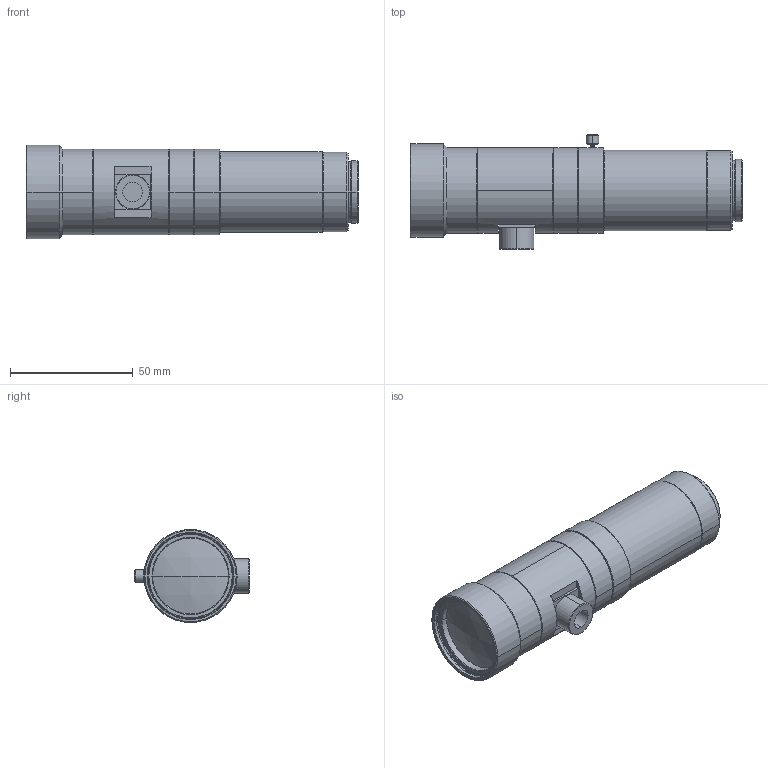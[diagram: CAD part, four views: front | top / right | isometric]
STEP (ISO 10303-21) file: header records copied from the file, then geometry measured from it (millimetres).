
FILE_DESCRIPTION (( 'STEP AP203' ), '1' );
FILE_NAME ('VS-THV1.5-110CO_S.STEP', '2021-08-25T05:48:53', ( '' ), ( '' ), 'SwSTEP 2.0', 'SolidWorks 2021', '' );
FILE_SCHEMA (( 'CONFIG_CONTROL_DESIGN' ));
Length unit declared in the file: millimetre
Products named in the file (1): VS-THV1.5-110CO_S
Bounding box: 135.42 x 46.8 x 38 mm (x, y, z)
Volume: 91063.3 mm3; surface area: 27927 mm2
Topology: 4 solids, 4 shells, 159 faces, 317 edges, 186 vertices
Faces by surface type: cone 74, cylinder 48, plane 33, sphere 4
Entity records: 4198 total; most frequent: DIRECTION 807, CARTESIAN_POINT 697, ORIENTED_EDGE 634, AXIS2_PLACEMENT_3D 334, EDGE_CURVE 317, VERTEX_POINT 186, EDGE_LOOP 181, CIRCLE 174
